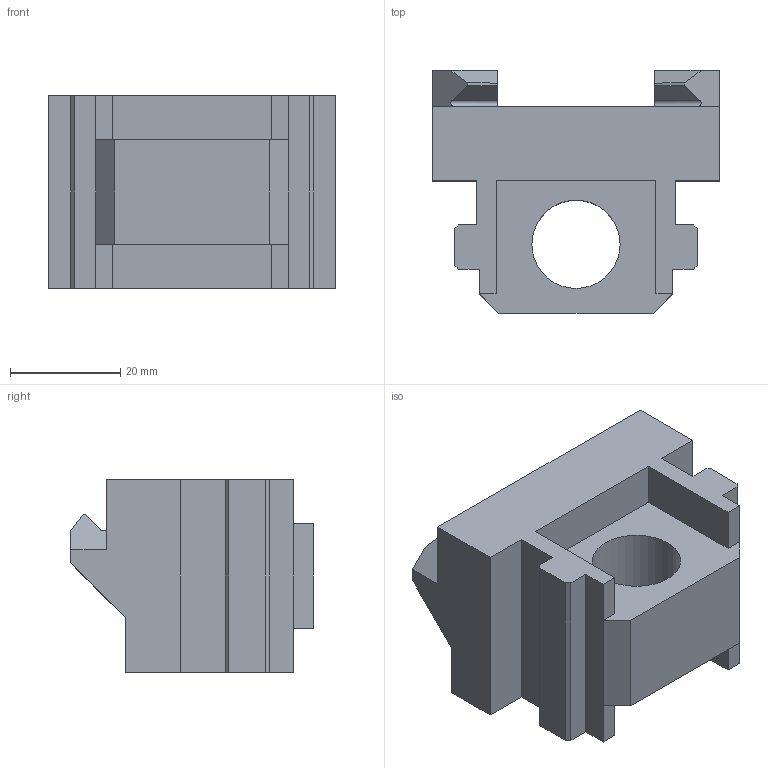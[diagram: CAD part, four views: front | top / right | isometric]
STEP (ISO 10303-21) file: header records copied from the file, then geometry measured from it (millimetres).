
FILE_DESCRIPTION (( 'STEP AP214' ), '1' );
FILE_NAME ('57708-0809.STEP', '2020-07-31T09:57:06', ( '' ), ( '' ), 'SwSTEP 2.0', 'SolidWorks 2019', '' );
FILE_SCHEMA (( 'AUTOMOTIVE_DESIGN' ));
Length unit declared in the file: millimetre
Products named in the file (1): 57708-0809
Bounding box: 52 x 44 x 35 mm (x, y, z)
Volume: 40391 mm3; surface area: 11318.1 mm2
Topology: 1 solids, 1 shells, 253 faces, 693 edges, 461 vertices
Faces by surface type: plane 204, bspline 46, cylinder 3
Full cylindrical faces by diameter (mm): 16 x1
Entity records: 12402 total; most frequent: CARTESIAN_POINT 3951, ORIENTED_EDGE 1382, DIRECTION 1013, EDGE_CURVE 691, LINE 593, VECTOR 593, VERTEX_POINT 460, EDGE_LOOP 275
